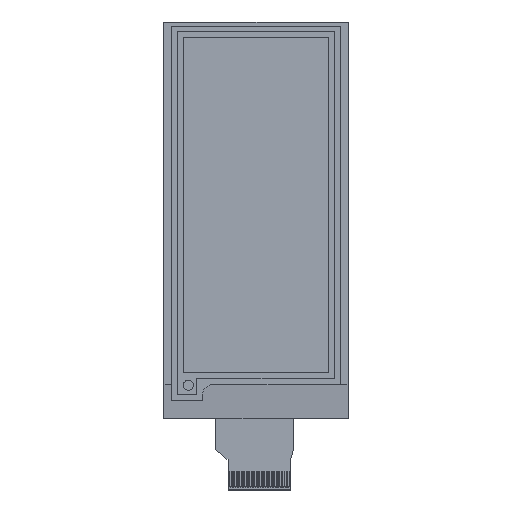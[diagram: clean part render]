
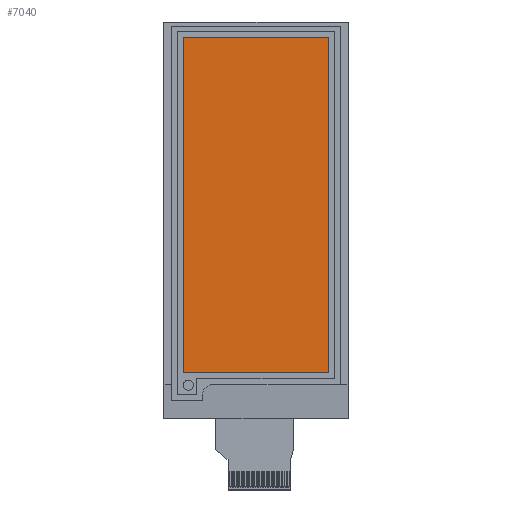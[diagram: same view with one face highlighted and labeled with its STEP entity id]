
A CAD part, top view. The second image highlights one B-rep face of the part: STEP entity #7040.
In plain terms, the highlighted planar face has unit normal (0, 0, 1).
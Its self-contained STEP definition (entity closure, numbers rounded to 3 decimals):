
#15 = CARTESIAN_POINT ( 'NONE',  ( 0., 33.45, 1.18 ) ) ;
#28 = CARTESIAN_POINT ( 'NONE',  ( 14.53, 0., 1.18 ) ) ;
#363 = ORIENTED_EDGE ( 'NONE', *, *, #11703, .F. ) ;
#420 = LINE ( 'NONE', #28, #4280 ) ;
#428 = CARTESIAN_POINT ( 'NONE',  ( -14.53, 0., 1.18 ) ) ;
#1754 = CARTESIAN_POINT ( 'NONE',  ( 14.53, -33.45, 1.18 ) ) ;
#1983 = DIRECTION ( 'NONE',  ( 0., -1., 0. ) ) ;
#2180 = EDGE_CURVE ( 'NONE', #11339, #10258, #4756, .T. ) ;
#2327 = VECTOR ( 'NONE', #8201, 1000. ) ;
#3342 = PLANE ( 'NONE',  #9224 ) ;
#3377 = CARTESIAN_POINT ( 'NONE',  ( 0., 0., 1.18 ) ) ;
#4280 = VECTOR ( 'NONE', #1983, 1000. ) ;
#4756 = LINE ( 'NONE', #15, #2327 ) ;
#5504 = ORIENTED_EDGE ( 'NONE', *, *, #2180, .F. ) ;
#5567 = EDGE_LOOP ( 'NONE', ( #8768, #7500, #363, #5504 ) ) ;
#6836 = DIRECTION ( 'NONE',  ( 0., 1., 0. ) ) ;
#7040 = ADVANCED_FACE ( 'NONE', ( #11576 ), #3342, .T. ) ;
#7500 = ORIENTED_EDGE ( 'NONE', *, *, #10648, .F. ) ;
#7770 = CARTESIAN_POINT ( 'NONE',  ( -14.53, 33.45, 1.18 ) ) ;
#7952 = VERTEX_POINT ( 'NONE', #11661 ) ;
#8201 = DIRECTION ( 'NONE',  ( 1., 0., 0. ) ) ;
#8434 = EDGE_CURVE ( 'NONE', #7952, #11339, #11455, .T. ) ;
#8719 = VERTEX_POINT ( 'NONE', #1754 ) ;
#8768 = ORIENTED_EDGE ( 'NONE', *, *, #8434, .F. ) ;
#8780 = DIRECTION ( 'NONE',  ( -1., 0., 0. ) ) ;
#8854 = VECTOR ( 'NONE', #8780, 1000. ) ;
#9224 = AXIS2_PLACEMENT_3D ( 'NONE', #3377, #11728, #11815 ) ;
#10137 = CARTESIAN_POINT ( 'NONE',  ( 14.53, 33.45, 1.18 ) ) ;
#10258 = VERTEX_POINT ( 'NONE', #10137 ) ;
#10314 = LINE ( 'NONE', #11669, #8854 ) ;
#10648 = EDGE_CURVE ( 'NONE', #8719, #7952, #10314, .T. ) ;
#11339 = VERTEX_POINT ( 'NONE', #7770 ) ;
#11455 = LINE ( 'NONE', #428, #11896 ) ;
#11576 = FACE_OUTER_BOUND ( 'NONE', #5567, .T. ) ;
#11661 = CARTESIAN_POINT ( 'NONE',  ( -14.53, -33.45, 1.18 ) ) ;
#11669 = CARTESIAN_POINT ( 'NONE',  ( 0., -33.45, 1.18 ) ) ;
#11703 = EDGE_CURVE ( 'NONE', #10258, #8719, #420, .T. ) ;
#11728 = DIRECTION ( 'NONE',  ( 0., 0., 1. ) ) ;
#11815 = DIRECTION ( 'NONE',  ( 1., 0., 0. ) ) ;
#11896 = VECTOR ( 'NONE', #6836, 1000. ) ;
